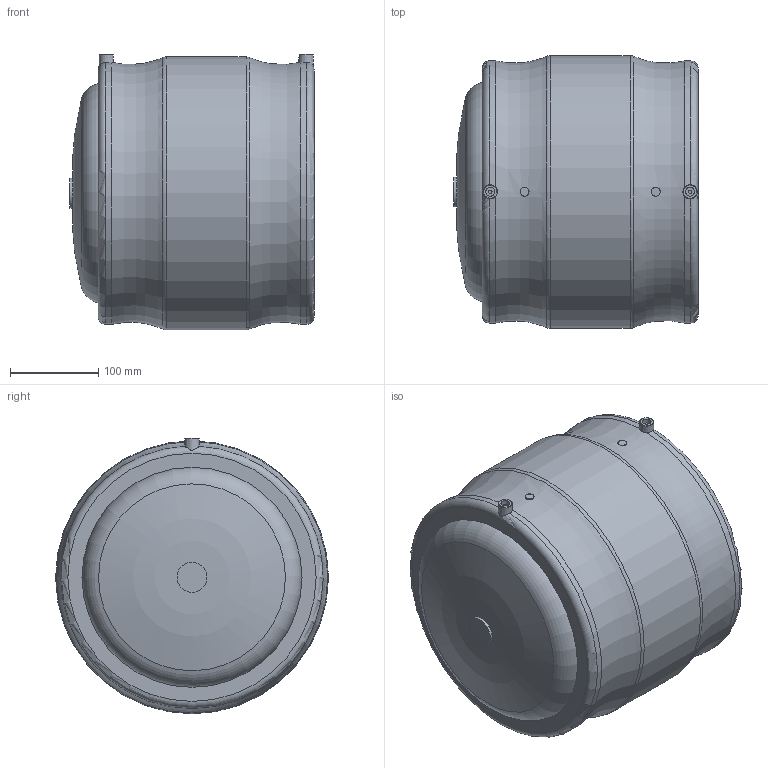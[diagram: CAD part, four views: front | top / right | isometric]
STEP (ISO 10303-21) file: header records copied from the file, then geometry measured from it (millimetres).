
FILE_DESCRIPTION(/* description */ ('Unknown'),/* implementation_level */ '2;1');
FILE_NAME(/* name */ 'CAEP250C',/* time_stamp */ '2021-02-11T10:27:31+01:00',/* author */ ('Unknown'),/* organization */ ('Unknown'),/* preprocessor_version */ 'ST-DEVELOPER v16.7',/* originating_system */ 'Solid Edge',/* authorisation */ 'Unknown');
FILE_SCHEMA (('AUTOMOTIVE_DESIGN {1 0 10303 214 3 1 1}'));
Length unit declared in the file: millimetre
Products named in the file (3): CAEP250C; MP250C; CAP250C
Assembly tree (2 placements, depth 2):
  CAEP250C
    MP250C
    CAP250C
Bounding box: 277.25 x 310 x 313 mm (x, y, z)
Volume: 8574086 mm3; surface area: 739492.1 mm2
Topology: 2 solids, 2 shells, 62 faces, 144 edges, 93 vertices
Faces by surface type: plane 27, cylinder 19, torus 12, cone 4
Full cylindrical faces by diameter (mm): 4 x2, 10 x4, 34 x1, 204.6 x1, 250 x2, 310 x1
Entity records: 1628 total; most frequent: CARTESIAN_POINT 319, DIRECTION 274, ORIENTED_EDGE 200, AXIS2_PLACEMENT_3D 119, FACE_BOUND 101, EDGE_CURVE 100, EDGE_LOOP 100, VERTEX_POINT 79
